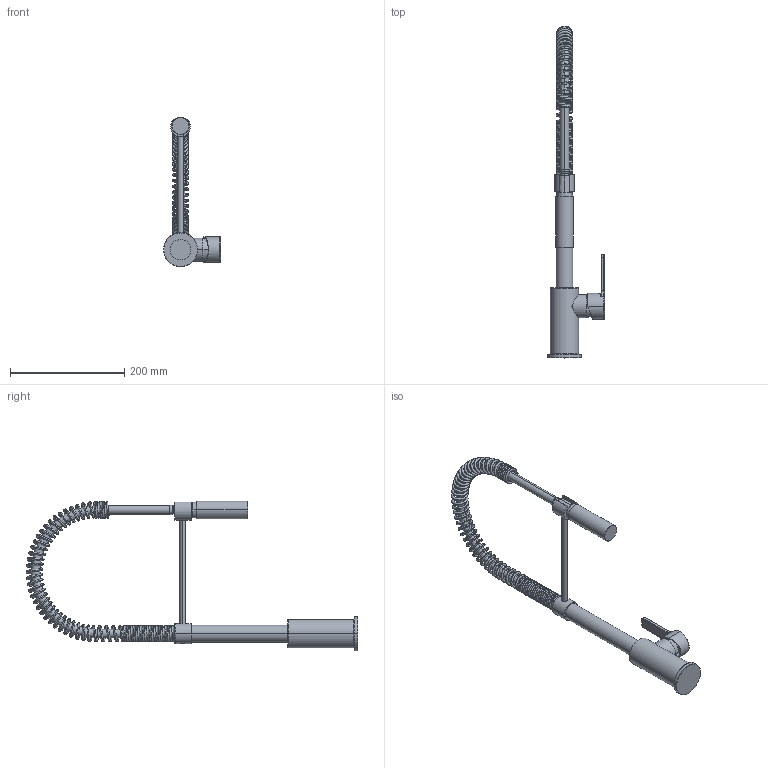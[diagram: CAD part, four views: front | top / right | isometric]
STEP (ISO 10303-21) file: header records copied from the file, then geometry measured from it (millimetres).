
FILE_DESCRIPTION((''),'2;1');
FILE_NAME('F3537_1_2012_SMEG_ASM_SW0001','2013-02-01T',('ivanv'),(''),'PRO/ENGINEER BY PARAMETRIC TECHNOLOGY CORPORATION, 2012130','PRO/ENGINEER BY PARAMETRIC TECHNOLOGY CORPORATION, 2012130','');
FILE_SCHEMA(('CONFIG_CONTROL_DESIGN'));
Length unit declared in the file: millimetre
Products named in the file (1): F3537_1_2012_SMEG_ASM_SW0001
Bounding box: 99.95 x 581.9 x 262.1 mm (x, y, z)
Volume: 504181.1 mm3; surface area: 230800.4 mm2
Topology: 3 solids, 3 shells, 436 faces, 1054 edges, 645 vertices
Faces by surface type: cylinder 148, cone 124, plane 89, bspline 44, torus 29, sphere 2
Entity records: 26341 total; most frequent: CARTESIAN_POINT 16345, DIRECTION 2105, ORIENTED_EDGE 2068, EDGE_CURVE 1034, AXIS2_PLACEMENT_3D 879, VERTEX_POINT 645, CIRCLE 486, EDGE_LOOP 483
